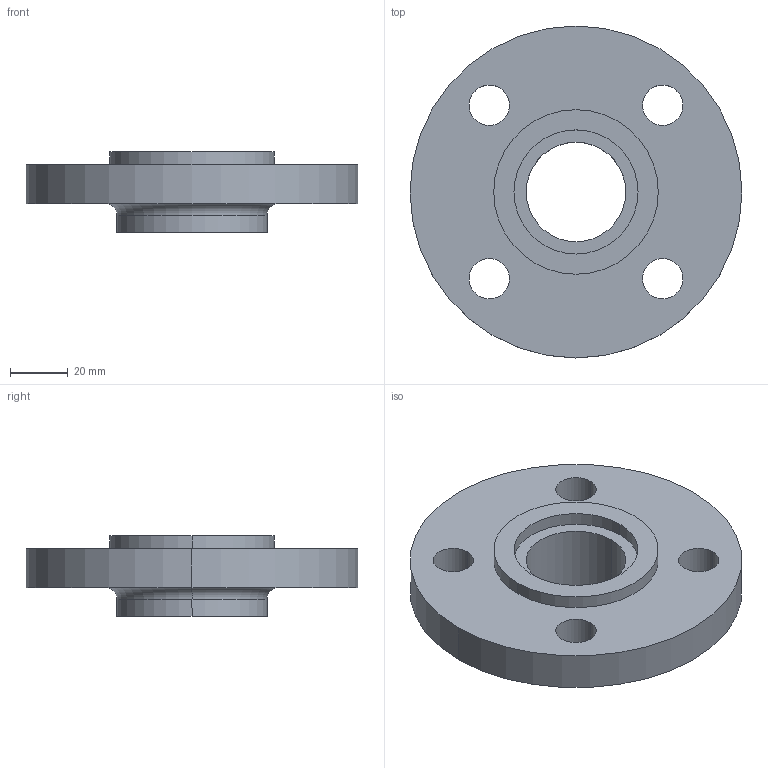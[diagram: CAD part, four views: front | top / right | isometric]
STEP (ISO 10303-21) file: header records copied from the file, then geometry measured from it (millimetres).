
FILE_DESCRIPTION (( 'STEP AP214' ), '1' );
FILE_NAME ('PN40 DN25 Type 12 - Type C Face.STEP', '2018-12-29T20:29:18', ( '' ), ( '' ), 'SwSTEP 2.0', 'SolidWorks 2019', '' );
FILE_SCHEMA (( 'AUTOMOTIVE_DESIGN' ));
Length unit declared in the file: millimetre
Products named in the file (1): PN40 DN25 Type 12 - Type C Face
Bounding box: 115 x 115 x 28 mm (x, y, z)
Volume: 136707.5 mm3; surface area: 30246 mm2
Topology: 1 solids, 1 shells, 25 faces, 58 edges, 38 vertices
Faces by surface type: cylinder 18, plane 5, torus 2
Entity records: 790 total; most frequent: DIRECTION 150, CARTESIAN_POINT 122, ORIENTED_EDGE 116, AXIS2_PLACEMENT_3D 66, EDGE_CURVE 58, CIRCLE 40, VERTEX_POINT 38, EDGE_LOOP 38
